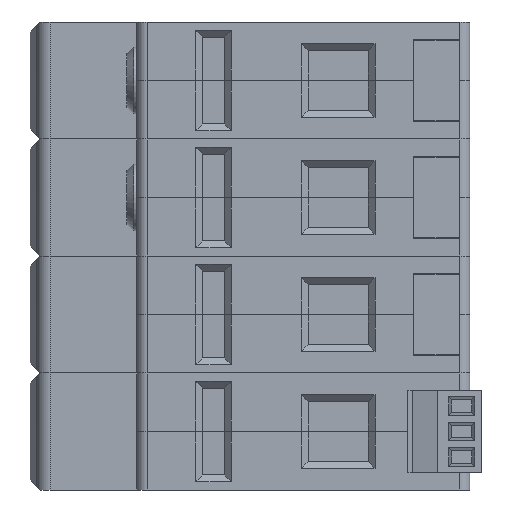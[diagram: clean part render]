
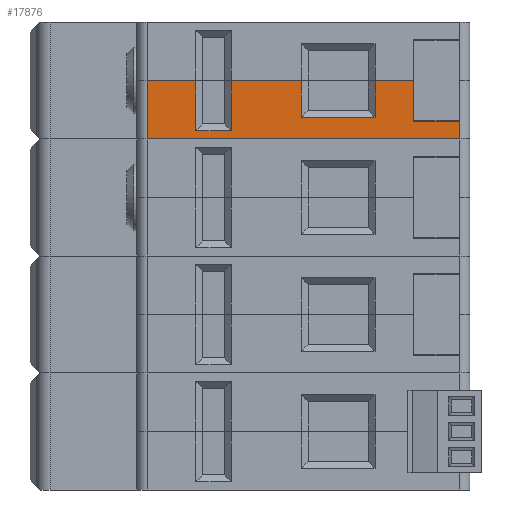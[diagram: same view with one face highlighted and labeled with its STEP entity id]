
A CAD part, left-side view. The second image highlights one B-rep face of the part: STEP entity #17876.
In plain terms, the highlighted planar face has unit normal (-1, 0, 0).
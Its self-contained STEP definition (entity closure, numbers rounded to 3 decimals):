
#1740=FACE_OUTER_BOUND('',#2759,.T.);
#2759=EDGE_LOOP('',(#15474,#15475,#15476,#15477,#15478,#15479,#15480,#15481,
#15482,#15483,#15484,#15485,#15486,#15487));
#4459=LINE('',#28463,#6499);
#4465=LINE('',#28475,#6505);
#4471=LINE('',#28487,#6511);
#4714=LINE('',#29030,#6754);
#4716=LINE('',#29037,#6756);
#4735=LINE('',#29074,#6775);
#4738=LINE('',#29081,#6778);
#4757=LINE('',#29118,#6797);
#4760=LINE('',#29125,#6800);
#4761=LINE('',#29127,#6801);
#4762=LINE('',#29129,#6802);
#4763=LINE('',#29130,#6803);
#4764=LINE('',#29131,#6804);
#4765=LINE('',#29132,#6805);
#6499=VECTOR('',#23275,10.);
#6505=VECTOR('',#23281,10.);
#6511=VECTOR('',#23287,10.);
#6754=VECTOR('',#23714,10.);
#6756=VECTOR('',#23722,10.);
#6775=VECTOR('',#23757,10.);
#6778=VECTOR('',#23764,10.);
#6797=VECTOR('',#23799,10.);
#6800=VECTOR('',#23806,10.);
#6801=VECTOR('',#23807,10.);
#6802=VECTOR('',#23808,10.);
#6803=VECTOR('',#23809,10.);
#6804=VECTOR('',#23810,10.);
#6805=VECTOR('',#23811,10.);
#8247=VERTEX_POINT('',#28460);
#8248=VERTEX_POINT('',#28462);
#8253=VERTEX_POINT('',#28472);
#8254=VERTEX_POINT('',#28474);
#8259=VERTEX_POINT('',#28484);
#8260=VERTEX_POINT('',#28486);
#8468=VERTEX_POINT('',#29028);
#8470=VERTEX_POINT('',#29036);
#8480=VERTEX_POINT('',#29072);
#8482=VERTEX_POINT('',#29080);
#8492=VERTEX_POINT('',#29116);
#8494=VERTEX_POINT('',#29124);
#8495=VERTEX_POINT('',#29126);
#8496=VERTEX_POINT('',#29128);
#10554=EDGE_CURVE('',#8248,#8247,#4459,.T.);
#10560=EDGE_CURVE('',#8254,#8253,#4465,.T.);
#10566=EDGE_CURVE('',#8260,#8259,#4471,.T.);
#10837=EDGE_CURVE('',#8468,#8247,#4714,.T.);
#10840=EDGE_CURVE('',#8248,#8470,#4716,.T.);
#10859=EDGE_CURVE('',#8480,#8253,#4735,.T.);
#10862=EDGE_CURVE('',#8254,#8482,#4738,.T.);
#10881=EDGE_CURVE('',#8492,#8259,#4757,.T.);
#10884=EDGE_CURVE('',#8468,#8494,#4760,.T.);
#10885=EDGE_CURVE('',#8495,#8494,#4761,.T.);
#10886=EDGE_CURVE('',#8495,#8496,#4762,.T.);
#10887=EDGE_CURVE('',#8496,#8260,#4763,.T.);
#10888=EDGE_CURVE('',#8482,#8492,#4764,.T.);
#10889=EDGE_CURVE('',#8470,#8480,#4765,.T.);
#15474=ORIENTED_EDGE('',*,*,#10554,.T.);
#15475=ORIENTED_EDGE('',*,*,#10837,.F.);
#15476=ORIENTED_EDGE('',*,*,#10884,.T.);
#15477=ORIENTED_EDGE('',*,*,#10885,.F.);
#15478=ORIENTED_EDGE('',*,*,#10886,.T.);
#15479=ORIENTED_EDGE('',*,*,#10887,.T.);
#15480=ORIENTED_EDGE('',*,*,#10566,.T.);
#15481=ORIENTED_EDGE('',*,*,#10881,.F.);
#15482=ORIENTED_EDGE('',*,*,#10888,.F.);
#15483=ORIENTED_EDGE('',*,*,#10862,.F.);
#15484=ORIENTED_EDGE('',*,*,#10560,.T.);
#15485=ORIENTED_EDGE('',*,*,#10859,.F.);
#15486=ORIENTED_EDGE('',*,*,#10889,.F.);
#15487=ORIENTED_EDGE('',*,*,#10840,.F.);
#16989=PLANE('',#19395);
#17876=ADVANCED_FACE('',(#1740),#16989,.T.);
#19395=AXIS2_PLACEMENT_3D('',#29123,#23804,#23805);
#23275=DIRECTION('',(0.,1.,0.));
#23281=DIRECTION('',(0.,1.,0.));
#23287=DIRECTION('',(0.,1.,0.));
#23714=DIRECTION('',(0.,0.,1.));
#23722=DIRECTION('',(0.,0.,-1.));
#23757=DIRECTION('',(0.,0.,1.));
#23764=DIRECTION('',(0.,0.,-1.));
#23799=DIRECTION('',(0.,0.,1.));
#23804=DIRECTION('center_axis',(-1.,0.,0.));
#23805=DIRECTION('ref_axis',(0.,-1.,0.));
#23806=DIRECTION('',(0.,-1.,0.));
#23807=DIRECTION('',(0.,0.,-1.));
#23808=DIRECTION('',(0.,1.,0.));
#23809=DIRECTION('',(0.,0.,1.));
#23810=DIRECTION('',(0.,-1.,0.));
#23811=DIRECTION('',(0.,-1.,0.));
#28460=CARTESIAN_POINT('',(-45.,12.5,8.7));
#28462=CARTESIAN_POINT('',(-45.,5.2,8.7));
#28463=CARTESIAN_POINT('',(-45.,4.197,8.7));
#28472=CARTESIAN_POINT('',(-45.,-0.1,8.7));
#28474=CARTESIAN_POINT('',(-45.,-10.6,8.7));
#28475=CARTESIAN_POINT('',(-45.,4.197,8.7));
#28484=CARTESIAN_POINT('',(-45.,-21.6,8.7));
#28486=CARTESIAN_POINT('',(-45.,-27.3,8.7));
#28487=CARTESIAN_POINT('',(-45.,4.197,8.7));
#29028=CARTESIAN_POINT('',(-45.,12.5,0.));
#29030=CARTESIAN_POINT('',(-45.,12.5,0.));
#29036=CARTESIAN_POINT('',(-45.,5.2,1.25));
#29037=CARTESIAN_POINT('',(-45.,5.2,1.125));
#29072=CARTESIAN_POINT('',(-45.,-0.1,1.25));
#29074=CARTESIAN_POINT('',(-45.,-0.1,7.625));
#29080=CARTESIAN_POINT('',(-45.,-10.6,3.25));
#29081=CARTESIAN_POINT('',(-45.,-10.6,2.125));
#29116=CARTESIAN_POINT('',(-45.,-21.6,3.25));
#29118=CARTESIAN_POINT('',(-45.,-21.6,6.625));
#29123=CARTESIAN_POINT('Origin',(-45.,14.,0.));
#29124=CARTESIAN_POINT('',(-45.,-34.3,0.));
#29125=CARTESIAN_POINT('',(-45.,14.,0.));
#29126=CARTESIAN_POINT('',(-45.,-34.3,2.64));
#29127=CARTESIAN_POINT('',(-45.,-34.3,0.));
#29128=CARTESIAN_POINT('',(-45.,-27.3,2.64));
#29129=CARTESIAN_POINT('',(-45.,-10.15,2.64));
#29130=CARTESIAN_POINT('',(-45.,-27.3,1.32));
#29131=CARTESIAN_POINT('',(-45.,-3.3,3.25));
#29132=CARTESIAN_POINT('',(-45.,7.45,1.25));
